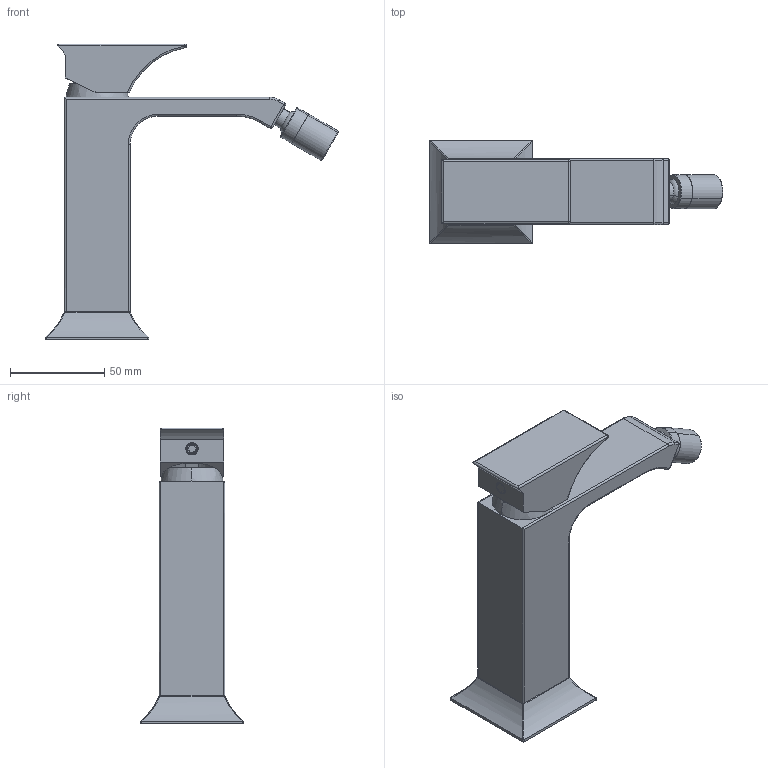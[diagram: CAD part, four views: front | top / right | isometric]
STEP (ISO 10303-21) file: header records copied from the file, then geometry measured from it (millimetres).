
FILE_DESCRIPTION (( 'STEP AP203' ), '1' );
FILE_NAME ('RPN14.STEP', '2024-03-29T16:14:50', ( '' ), ( '' ), 'SwSTEP 2.0', 'SolidWorks 2023', '' );
FILE_SCHEMA (( 'CONFIG_CONTROL_DESIGN' ));
Length unit declared in the file: millimetre
Products named in the file (12): NUOVO CORPO FURO BIDET 2; C13.00.0066.01; SNODO F.; C18.14.0017.01; C18.14.0013.00; C11.14.0009; RPN14; C18.14.0011.01; C24.0351.00.2; C24.0394.00.0; C10.00.0032; C47.00.0023.01
Assembly tree (11 placements, depth 3):
  RPN14
    C18.14.0017.01
      NUOVO CORPO FURO BIDET 2
      C10.00.0032
      C18.14.0011.01
      C18.14.0013.00
      SNODO F.
      C13.00.0066.01
    C24.0394.00.0
    C24.0351.00.2
    C47.00.0023.01
    C11.14.0009
Bounding box: 155.8 x 55 x 157.3 mm (x, y, z)
Volume: 216638.4 mm3; surface area: 65197.8 mm2
Topology: 12 solids, 12 shells, 567 faces, 1357 edges, 860 vertices
Faces by surface type: plane 236, cylinder 209, bspline 53, cone 35, torus 22, sphere 12
Entity records: 19181 total; most frequent: CARTESIAN_POINT 4747, DIRECTION 2870, ORIENTED_EDGE 2684, EDGE_CURVE 1342, AXIS2_PLACEMENT_3D 1132, VERTEX_POINT 860, EDGE_LOOP 642, VECTOR 606
